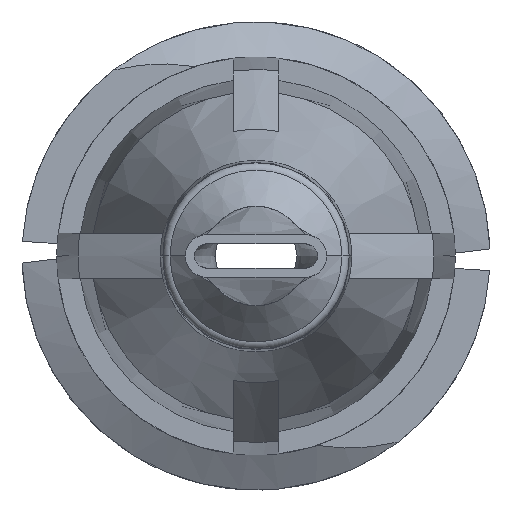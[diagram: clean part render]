
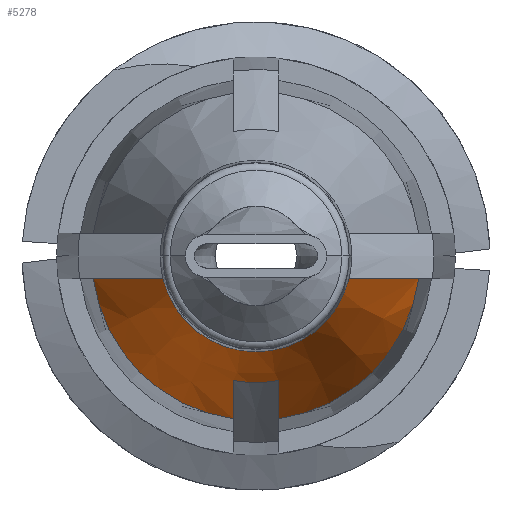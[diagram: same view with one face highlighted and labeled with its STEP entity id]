
A CAD part, front view. The second image highlights one B-rep face of the part: STEP entity #5278.
In plain terms, the highlighted conical face has half-angle 20 degrees and reference radius 2.745 mm.
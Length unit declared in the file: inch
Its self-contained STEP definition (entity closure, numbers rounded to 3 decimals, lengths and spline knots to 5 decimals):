
#102 = CARTESIAN_POINT ( 'NONE',  ( -0.015, -0.42866, -0.0987 ) ) ;
#151 = AXIS2_PLACEMENT_3D ( 'NONE', #5669, #1596, #3393 ) ;
#198 = VERTEX_POINT ( 'NONE', #2929 ) ;
#285 = CARTESIAN_POINT ( 'NONE',  ( 0.07664, -0.48863, -0.015 ) ) ;
#411 = VERTEX_POINT ( 'NONE', #2604 ) ;
#529 = ORIENTED_EDGE ( 'NONE', *, *, #5237, .F. ) ;
#643 = CARTESIAN_POINT ( 'NONE',  ( 0., -0.47395, 0. ) ) ;
#722 = CIRCLE ( 'NONE', #151, 0.063 ) ;
#727 = CARTESIAN_POINT ( 'NONE',  ( -0.015, -0.406, -0.10703 ) ) ;
#739 = B_SPLINE_CURVE_WITH_KNOTS ( 'NONE', 3,
 ( #3306, #5115, #1068, #3786 ),
 .UNSPECIFIED., .F., .F.,
 ( 4, 4 ),
 ( 0.00343, 0.00527 ),
 .UNSPECIFIED. ) ;
#792 = CARTESIAN_POINT ( 'NONE',  ( -0.10703, -0.406, -0.015 ) ) ;
#818 = CARTESIAN_POINT ( 'NONE',  ( 0.09185, -0.44732, -0.015 ) ) ;
#828 = CARTESIAN_POINT ( 'NONE',  ( -0.09185, -0.44732, -0.015 ) ) ;
#903 = EDGE_LOOP ( 'NONE', ( #5422, #3550, #5099, #4613, #1701, #529, #2819, #2161 ) ) ;
#974 = B_SPLINE_CURVE_WITH_KNOTS ( 'NONE', 3,
 ( #2751, #4085, #102, #5490 ),
 .UNSPECIFIED., .F., .F.,
 ( 4, 4 ),
 ( 0.00247, 0.00431 ),
 .UNSPECIFIED. ) ;
#1026 = CIRCLE ( 'NONE', #5170, 0.08335 ) ;
#1048 = DIRECTION ( 'NONE',  ( -1., 0., 0. ) ) ;
#1068 = CARTESIAN_POINT ( 'NONE',  ( 0.015, -0.45131, -0.09036 ) ) ;
#1088 = EDGE_CURVE ( 'NONE', #2928, #5816, #1387, .T. ) ;
#1157 = EDGE_CURVE ( 'NONE', #198, #5189, #974, .T. ) ;
#1171 = AXIS2_PLACEMENT_3D ( 'NONE', #4408, #3095, #2149 ) ;
#1387 = B_SPLINE_CURVE_WITH_KNOTS ( 'NONE', 3,
 ( #4337, #285, #818, #3967 ),
 .UNSPECIFIED., .F., .F.,
 ( 4, 4 ),
 ( 0.00282, 0.00617 ),
 .UNSPECIFIED. ) ;
#1401 = VERTEX_POINT ( 'NONE', #1955 ) ;
#1480 = AXIS2_PLACEMENT_3D ( 'NONE', #3765, #4762, #2428 ) ;
#1596 = DIRECTION ( 'NONE',  ( 0., 1., 0. ) ) ;
#1701 = ORIENTED_EDGE ( 'NONE', *, *, #1157, .F. ) ;
#1767 = EDGE_CURVE ( 'NONE', #5816, #411, #4951, .T. ) ;
#1955 = CARTESIAN_POINT ( 'NONE',  ( 0.015, -0.47395, -0.08198 ) ) ;
#2149 = DIRECTION ( 'NONE',  ( 1., 0., 0. ) ) ;
#2161 = ORIENTED_EDGE ( 'NONE', *, *, #1767, .F. ) ;
#2262 = VERTEX_POINT ( 'NONE', #792 ) ;
#2428 = DIRECTION ( 'NONE',  ( 1., 0., 0. ) ) ;
#2604 = CARTESIAN_POINT ( 'NONE',  ( 0.015, -0.406, -0.10703 ) ) ;
#2751 = CARTESIAN_POINT ( 'NONE',  ( -0.015, -0.47395, -0.08198 ) ) ;
#2819 = ORIENTED_EDGE ( 'NONE', *, *, #4126, .F. ) ;
#2890 = CIRCLE ( 'NONE', #2988, 0.10808 ) ;
#2928 = VERTEX_POINT ( 'NONE', #5089 ) ;
#2929 = CARTESIAN_POINT ( 'NONE',  ( -0.015, -0.47395, -0.08198 ) ) ;
#2956 = DIRECTION ( 'NONE',  ( 0., 1., 0. ) ) ;
#2988 = AXIS2_PLACEMENT_3D ( 'NONE', #4067, #3293, #5101 ) ;
#3007 = EDGE_CURVE ( 'NONE', #2928, #5014, #722, .T. ) ;
#3059 = CARTESIAN_POINT ( 'NONE',  ( -0.07664, -0.48863, -0.015 ) ) ;
#3095 = DIRECTION ( 'NONE',  ( 0., 1., 0. ) ) ;
#3293 = DIRECTION ( 'NONE',  ( 0., 1., 0. ) ) ;
#3306 = CARTESIAN_POINT ( 'NONE',  ( 0.015, -0.406, -0.10703 ) ) ;
#3393 = DIRECTION ( 'NONE',  ( 1., 0., 0. ) ) ;
#3550 = ORIENTED_EDGE ( 'NONE', *, *, #3007, .T. ) ;
#3658 = CONICAL_SURFACE ( 'NONE', #1480, 0.10808, 0.349 ) ;
#3765 = CARTESIAN_POINT ( 'NONE',  ( 0., -0.406, 0. ) ) ;
#3786 = CARTESIAN_POINT ( 'NONE',  ( 0.015, -0.47395, -0.08198 ) ) ;
#3790 = FACE_OUTER_BOUND ( 'NONE', #903, .T. ) ;
#3967 = CARTESIAN_POINT ( 'NONE',  ( 0.10703, -0.406, -0.015 ) ) ;
#4067 = CARTESIAN_POINT ( 'NONE',  ( 0., -0.406, 0. ) ) ;
#4085 = CARTESIAN_POINT ( 'NONE',  ( -0.015, -0.45131, -0.09036 ) ) ;
#4126 = EDGE_CURVE ( 'NONE', #411, #1401, #739, .T. ) ;
#4179 = CARTESIAN_POINT ( 'NONE',  ( -0.06119, -0.52985, -0.015 ) ) ;
#4337 = CARTESIAN_POINT ( 'NONE',  ( 0.06119, -0.52985, -0.015 ) ) ;
#4408 = CARTESIAN_POINT ( 'NONE',  ( 0., -0.406, 0. ) ) ;
#4439 = CARTESIAN_POINT ( 'NONE',  ( -0.10703, -0.406, -0.015 ) ) ;
#4542 = CARTESIAN_POINT ( 'NONE',  ( 0.10703, -0.406, -0.015 ) ) ;
#4552 = EDGE_CURVE ( 'NONE', #5014, #2262, #4823, .T. ) ;
#4613 = ORIENTED_EDGE ( 'NONE', *, *, #4726, .F. ) ;
#4726 = EDGE_CURVE ( 'NONE', #5189, #2262, #2890, .T. ) ;
#4762 = DIRECTION ( 'NONE',  ( 0., 1., 0. ) ) ;
#4823 = B_SPLINE_CURVE_WITH_KNOTS ( 'NONE', 3,
 ( #5352, #3059, #828, #4439 ),
 .UNSPECIFIED., .F., .F.,
 ( 4, 4 ),
 ( 0.00282, 0.00617 ),
 .UNSPECIFIED. ) ;
#4951 = CIRCLE ( 'NONE', #1171, 0.10808 ) ;
#5014 = VERTEX_POINT ( 'NONE', #4179 ) ;
#5089 = CARTESIAN_POINT ( 'NONE',  ( 0.06119, -0.52985, -0.015 ) ) ;
#5099 = ORIENTED_EDGE ( 'NONE', *, *, #4552, .T. ) ;
#5101 = DIRECTION ( 'NONE',  ( 1., 0., 0. ) ) ;
#5115 = CARTESIAN_POINT ( 'NONE',  ( 0.015, -0.42866, -0.0987 ) ) ;
#5170 = AXIS2_PLACEMENT_3D ( 'NONE', #643, #2956, #1048 ) ;
#5189 = VERTEX_POINT ( 'NONE', #727 ) ;
#5237 = EDGE_CURVE ( 'NONE', #1401, #198, #1026, .T. ) ;
#5278 = ADVANCED_FACE ( 'NONE', ( #3790 ), #3658, .T. ) ;
#5352 = CARTESIAN_POINT ( 'NONE',  ( -0.06119, -0.52985, -0.015 ) ) ;
#5422 = ORIENTED_EDGE ( 'NONE', *, *, #1088, .F. ) ;
#5490 = CARTESIAN_POINT ( 'NONE',  ( -0.015, -0.406, -0.10703 ) ) ;
#5669 = CARTESIAN_POINT ( 'NONE',  ( 0., -0.52985, 0. ) ) ;
#5816 = VERTEX_POINT ( 'NONE', #4542 ) ;
